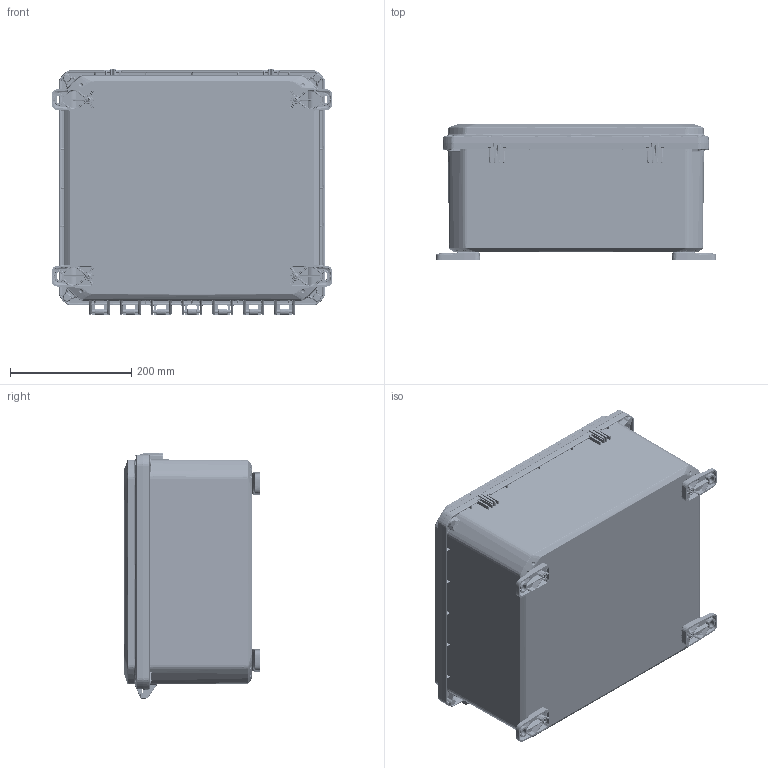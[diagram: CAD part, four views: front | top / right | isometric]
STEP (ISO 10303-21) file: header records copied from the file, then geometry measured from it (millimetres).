
FILE_DESCRIPTION (( 'STEP AP214' ), '1' );
FILE_NAME ('ZH-161407-33.STEP', '2024-06-17T12:02:28', ( '' ), ( '' ), 'SwSTEP 2.0', 'SolidWorks 2024', '' );
FILE_SCHEMA (( 'AUTOMOTIVE_DESIGN' ));
Length unit declared in the file: inch
Products named in the file (11): ZH-01F_ZH-01F-01; SCREWS-047_default; SCREWS-046_SCREWS-046; Z_-16141C_ZH-16141C-01; ZH-161407-33; Z_-16141CG_ZH-16141CG-01; Z_-16147BI_ZH-16147BI-01; LABEL-104; ZH-1614G; INSERTS-4; Z_-16147B_ZH-16147B-01
Assembly tree (30 placements, depth 3):
  ZH-161407-33
    Z_-16147BI_ZH-16147BI-01
      Z_-16147B_ZH-16147B-01
      INSERTS-4  x12
      LABEL-104
    Z_-16141CG_ZH-16141CG-01
      Z_-16141C_ZH-16141C-01
      ZH-1614G
    ZH-01F_ZH-01F-01  x4
    SCREWS-046_SCREWS-046  x4
    SCREWS-047_default  x4
Bounding box: 462.39 x 222.33 x 406.27 mm (x, y, z)
Volume: 3196001.4 mm3; surface area: 1498727.1 mm2
Topology: 28 solids, 28 shells, 9255 faces, 22603 edges, 13374 vertices
Faces by surface type: bspline 2652, cylinder 2235, plane 1810, cone 1416, torus 940, sphere 202
Entity records: 321988 total; most frequent: CARTESIAN_POINT 191610, ORIENTED_EDGE 29904, DIRECTION 24481, EDGE_CURVE 14952, AXIS2_PLACEMENT_3D 10070, VERTEX_POINT 8767, EDGE_LOOP 6555, FACE_OUTER_BOUND 6356
